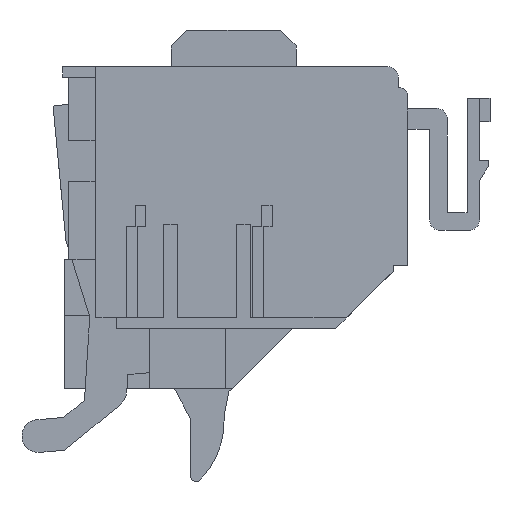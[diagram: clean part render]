
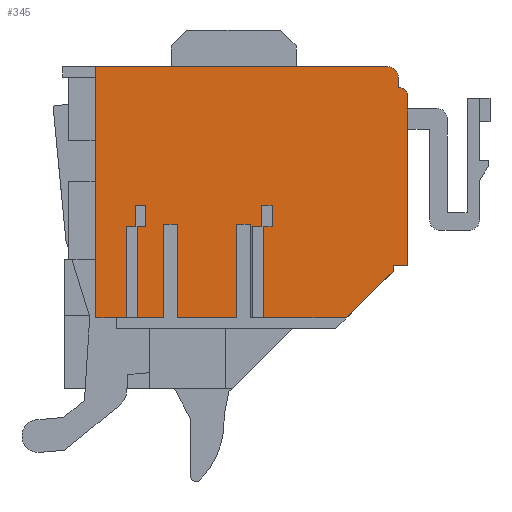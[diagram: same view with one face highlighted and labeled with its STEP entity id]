
A CAD part, front view. The second image highlights one B-rep face of the part: STEP entity #345.
In plain terms, the highlighted planar face has unit normal (0, -1, 0).
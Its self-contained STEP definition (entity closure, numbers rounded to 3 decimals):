
#80=FACE_OUTER_BOUND('',#924,.T.);
#345=ADVANCED_FACE('',(#80),#623,.T.);
#623=PLANE('',#5746);
#924=EDGE_LOOP('',(#1371,#1372,#1373,#1374,#1375,#1376,#1377,#1378,#1379,
#1380,#1381,#1382,#1383,#1384,#1385,#1386,#1387,#1388,#1389,#1390,#1391,
#1392,#1393,#1394,#1395,#1396,#1397,#1398,#1399,#1400,#1401,#1402,#1403,
#1404,#1405));
#1213=CIRCLE('',#5744,0.8);
#1214=CIRCLE('',#5745,1.);
#1371=ORIENTED_EDGE('',*,*,#3505,.T.);
#1372=ORIENTED_EDGE('',*,*,#3514,.T.);
#1373=ORIENTED_EDGE('',*,*,#3500,.T.);
#1374=ORIENTED_EDGE('',*,*,#3487,.T.);
#1375=ORIENTED_EDGE('',*,*,#3515,.T.);
#1376=ORIENTED_EDGE('',*,*,#3516,.T.);
#1377=ORIENTED_EDGE('',*,*,#3517,.T.);
#1378=ORIENTED_EDGE('',*,*,#3518,.T.);
#1379=ORIENTED_EDGE('',*,*,#3519,.T.);
#1380=ORIENTED_EDGE('',*,*,#3520,.T.);
#1381=ORIENTED_EDGE('',*,*,#3521,.F.);
#1382=ORIENTED_EDGE('',*,*,#3522,.F.);
#1383=ORIENTED_EDGE('',*,*,#3523,.F.);
#1384=ORIENTED_EDGE('',*,*,#3524,.F.);
#1385=ORIENTED_EDGE('',*,*,#3525,.F.);
#1386=ORIENTED_EDGE('',*,*,#3526,.F.);
#1387=ORIENTED_EDGE('',*,*,#3527,.F.);
#1388=ORIENTED_EDGE('',*,*,#3528,.F.);
#1389=ORIENTED_EDGE('',*,*,#3529,.F.);
#1390=ORIENTED_EDGE('',*,*,#3530,.F.);
#1391=ORIENTED_EDGE('',*,*,#3531,.F.);
#1392=ORIENTED_EDGE('',*,*,#3532,.F.);
#1393=ORIENTED_EDGE('',*,*,#3533,.F.);
#1394=ORIENTED_EDGE('',*,*,#3534,.F.);
#1395=ORIENTED_EDGE('',*,*,#3535,.F.);
#1396=ORIENTED_EDGE('',*,*,#3536,.F.);
#1397=ORIENTED_EDGE('',*,*,#3537,.F.);
#1398=ORIENTED_EDGE('',*,*,#3538,.F.);
#1399=ORIENTED_EDGE('',*,*,#3539,.F.);
#1400=ORIENTED_EDGE('',*,*,#3540,.F.);
#1401=ORIENTED_EDGE('',*,*,#3541,.F.);
#1402=ORIENTED_EDGE('',*,*,#3542,.F.);
#1403=ORIENTED_EDGE('',*,*,#3543,.F.);
#1404=ORIENTED_EDGE('',*,*,#3544,.F.);
#1405=ORIENTED_EDGE('',*,*,#3545,.F.);
#2945=VERTEX_POINT('',#7683);
#2946=VERTEX_POINT('',#7685);
#2948=VERTEX_POINT('',#7690);
#2958=VERTEX_POINT('',#7716);
#2959=VERTEX_POINT('',#7718);
#2967=VERTEX_POINT('',#7737);
#2968=VERTEX_POINT('',#7739);
#2969=VERTEX_POINT('',#7741);
#2970=VERTEX_POINT('',#7743);
#2971=VERTEX_POINT('',#7745);
#2972=VERTEX_POINT('',#7747);
#2973=VERTEX_POINT('',#7749);
#2974=VERTEX_POINT('',#7751);
#2975=VERTEX_POINT('',#7753);
#2976=VERTEX_POINT('',#7755);
#2977=VERTEX_POINT('',#7757);
#2978=VERTEX_POINT('',#7759);
#2979=VERTEX_POINT('',#7761);
#2980=VERTEX_POINT('',#7763);
#2981=VERTEX_POINT('',#7765);
#2982=VERTEX_POINT('',#7767);
#2983=VERTEX_POINT('',#7769);
#2984=VERTEX_POINT('',#7771);
#2985=VERTEX_POINT('',#7773);
#2986=VERTEX_POINT('',#7775);
#2987=VERTEX_POINT('',#7777);
#2988=VERTEX_POINT('',#7779);
#2989=VERTEX_POINT('',#7781);
#2990=VERTEX_POINT('',#7783);
#2991=VERTEX_POINT('',#7785);
#2992=VERTEX_POINT('',#7787);
#2993=VERTEX_POINT('',#7789);
#2994=VERTEX_POINT('',#7791);
#2995=VERTEX_POINT('',#7793);
#2996=VERTEX_POINT('',#7795);
#3487=EDGE_CURVE('',#2946,#2945,#4286,.T.);
#3500=EDGE_CURVE('',#2948,#2946,#4299,.T.);
#3505=EDGE_CURVE('',#2959,#2958,#4304,.T.);
#3514=EDGE_CURVE('',#2958,#2948,#4313,.T.);
#3515=EDGE_CURVE('',#2945,#2967,#1213,.T.);
#3516=EDGE_CURVE('',#2967,#2968,#4314,.T.);
#3517=EDGE_CURVE('',#2968,#2969,#4315,.T.);
#3518=EDGE_CURVE('',#2969,#2970,#1214,.T.);
#3519=EDGE_CURVE('',#2970,#2971,#4316,.T.);
#3520=EDGE_CURVE('',#2971,#2972,#4317,.T.);
#3521=EDGE_CURVE('',#2973,#2972,#4318,.T.);
#3522=EDGE_CURVE('',#2974,#2973,#4319,.T.);
#3523=EDGE_CURVE('',#2975,#2974,#4320,.T.);
#3524=EDGE_CURVE('',#2976,#2975,#4321,.T.);
#3525=EDGE_CURVE('',#2977,#2976,#4322,.T.);
#3526=EDGE_CURVE('',#2978,#2977,#4323,.T.);
#3527=EDGE_CURVE('',#2979,#2978,#4324,.T.);
#3528=EDGE_CURVE('',#2980,#2979,#4325,.T.);
#3529=EDGE_CURVE('',#2981,#2980,#4326,.T.);
#3530=EDGE_CURVE('',#2982,#2981,#4327,.T.);
#3531=EDGE_CURVE('',#2983,#2982,#4328,.T.);
#3532=EDGE_CURVE('',#2984,#2983,#4329,.T.);
#3533=EDGE_CURVE('',#2985,#2984,#4330,.T.);
#3534=EDGE_CURVE('',#2986,#2985,#4331,.T.);
#3535=EDGE_CURVE('',#2987,#2986,#4332,.T.);
#3536=EDGE_CURVE('',#2988,#2987,#4333,.T.);
#3537=EDGE_CURVE('',#2989,#2988,#4334,.T.);
#3538=EDGE_CURVE('',#2990,#2989,#4335,.T.);
#3539=EDGE_CURVE('',#2991,#2990,#4336,.T.);
#3540=EDGE_CURVE('',#2992,#2991,#4337,.T.);
#3541=EDGE_CURVE('',#2993,#2992,#4338,.T.);
#3542=EDGE_CURVE('',#2994,#2993,#4339,.T.);
#3543=EDGE_CURVE('',#2995,#2994,#4340,.T.);
#3544=EDGE_CURVE('',#2996,#2995,#4341,.T.);
#3545=EDGE_CURVE('',#2959,#2996,#4342,.T.);
#4286=LINE('',#7684,#5044);
#4299=LINE('',#7707,#5057);
#4304=LINE('',#7717,#5062);
#4313=LINE('',#7735,#5071);
#4314=LINE('',#7738,#5072);
#4315=LINE('',#7740,#5073);
#4316=LINE('',#7744,#5074);
#4317=LINE('',#7746,#5075);
#4318=LINE('',#7748,#5076);
#4319=LINE('',#7750,#5077);
#4320=LINE('',#7752,#5078);
#4321=LINE('',#7754,#5079);
#4322=LINE('',#7756,#5080);
#4323=LINE('',#7758,#5081);
#4324=LINE('',#7760,#5082);
#4325=LINE('',#7762,#5083);
#4326=LINE('',#7764,#5084);
#4327=LINE('',#7766,#5085);
#4328=LINE('',#7768,#5086);
#4329=LINE('',#7770,#5087);
#4330=LINE('',#7772,#5088);
#4331=LINE('',#7774,#5089);
#4332=LINE('',#7776,#5090);
#4333=LINE('',#7778,#5091);
#4334=LINE('',#7780,#5092);
#4335=LINE('',#7782,#5093);
#4336=LINE('',#7784,#5094);
#4337=LINE('',#7786,#5095);
#4338=LINE('',#7788,#5096);
#4339=LINE('',#7790,#5097);
#4340=LINE('',#7792,#5098);
#4341=LINE('',#7794,#5099);
#4342=LINE('',#7796,#5100);
#5044=VECTOR('',#6160,1.);
#5057=VECTOR('',#6175,1.);
#5062=VECTOR('',#6182,1.);
#5071=VECTOR('',#6193,1.);
#5072=VECTOR('',#6196,1.);
#5073=VECTOR('',#6197,1.);
#5074=VECTOR('',#6200,1.);
#5075=VECTOR('',#6201,1.);
#5076=VECTOR('',#6202,1.);
#5077=VECTOR('',#6203,1.);
#5078=VECTOR('',#6204,1.);
#5079=VECTOR('',#6205,1.);
#5080=VECTOR('',#6206,1.);
#5081=VECTOR('',#6207,1.);
#5082=VECTOR('',#6208,1.);
#5083=VECTOR('',#6209,1.);
#5084=VECTOR('',#6210,1.);
#5085=VECTOR('',#6211,1.);
#5086=VECTOR('',#6212,1.);
#5087=VECTOR('',#6213,1.);
#5088=VECTOR('',#6214,1.);
#5089=VECTOR('',#6215,1.);
#5090=VECTOR('',#6216,1.);
#5091=VECTOR('',#6217,1.);
#5092=VECTOR('',#6218,1.);
#5093=VECTOR('',#6219,1.);
#5094=VECTOR('',#6220,1.);
#5095=VECTOR('',#6221,1.);
#5096=VECTOR('',#6222,1.);
#5097=VECTOR('',#6223,1.);
#5098=VECTOR('',#6224,1.);
#5099=VECTOR('',#6225,1.);
#5100=VECTOR('',#6226,1.);
#5744=AXIS2_PLACEMENT_3D('',#7736,#6194,#6195);
#5745=AXIS2_PLACEMENT_3D('',#7742,#6198,#6199);
#5746=AXIS2_PLACEMENT_3D('',#7797,#6227,#6228);
#6160=DIRECTION('',(0.,0.,1.));
#6175=DIRECTION('',(1.,0.,0.));
#6182=DIRECTION('',(0.707,0.,0.707));
#6193=DIRECTION('',(0.,0.,1.));
#6194=DIRECTION('',(0.,-1.,0.));
#6195=DIRECTION('',(1.,0.,0.));
#6196=DIRECTION('',(-1.,0.,0.));
#6197=DIRECTION('',(0.,0.,1.));
#6198=DIRECTION('',(0.,-1.,0.));
#6199=DIRECTION('',(1.,0.,0.));
#6200=DIRECTION('',(-1.,0.,0.));
#6201=DIRECTION('',(0.,0.,-1.));
#6202=DIRECTION('',(-1.,0.,0.));
#6203=DIRECTION('',(0.,0.,-1.));
#6204=DIRECTION('',(-1.,0.,0.));
#6205=DIRECTION('',(0.,0.,-1.));
#6206=DIRECTION('',(-1.,0.,0.));
#6207=DIRECTION('',(0.,0.,1.));
#6208=DIRECTION('',(1.,0.,0.));
#6209=DIRECTION('',(0.,0.,1.));
#6210=DIRECTION('',(-1.,0.,0.));
#6211=DIRECTION('',(0.,0.,-1.));
#6212=DIRECTION('',(-1.,0.,0.));
#6213=DIRECTION('',(0.,0.,1.));
#6214=DIRECTION('',(-1.,0.,0.));
#6215=DIRECTION('',(0.,0.,-1.));
#6216=DIRECTION('',(-1.,0.,0.));
#6217=DIRECTION('',(0.,0.,1.));
#6218=DIRECTION('',(-1.,0.,0.));
#6219=DIRECTION('',(0.,0.,-1.));
#6220=DIRECTION('',(-1.,0.,0.));
#6221=DIRECTION('',(0.,0.,-1.));
#6222=DIRECTION('',(-1.,0.,0.));
#6223=DIRECTION('',(0.,0.,1.));
#6224=DIRECTION('',(1.,0.,0.));
#6225=DIRECTION('',(0.,0.,1.));
#6226=DIRECTION('',(-1.,0.,0.));
#6227=DIRECTION('',(0.,-1.,0.));
#6228=DIRECTION('',(0.,0.,-1.));
#7683=CARTESIAN_POINT('',(0.9,18.25,-2.8));
#7684=CARTESIAN_POINT('',(0.9,18.25,-19.1));
#7685=CARTESIAN_POINT('',(0.9,18.25,-19.1));
#7690=CARTESIAN_POINT('',(-0.5,18.25,-19.1));
#7707=CARTESIAN_POINT('',(0.,18.25,-19.1));
#7716=CARTESIAN_POINT('',(-0.5,18.25,-19.6));
#7717=CARTESIAN_POINT('',(-5.3,18.25,-24.4));
#7718=CARTESIAN_POINT('',(-5.,18.25,-24.1));
#7735=CARTESIAN_POINT('',(-0.5,18.25,-2.8));
#7736=CARTESIAN_POINT('',(0.1,18.25,-2.8));
#7737=CARTESIAN_POINT('',(0.1,18.25,-2.));
#7738=CARTESIAN_POINT('',(0.1,18.25,-2.));
#7739=CARTESIAN_POINT('',(0.,18.25,-2.));
#7740=CARTESIAN_POINT('',(0.,18.25,-2.));
#7741=CARTESIAN_POINT('',(0.,18.25,-1.));
#7742=CARTESIAN_POINT('',(-1.,18.25,-1.));
#7743=CARTESIAN_POINT('',(-1.,18.25,0.));
#7744=CARTESIAN_POINT('',(-1.,18.25,0.));
#7745=CARTESIAN_POINT('',(-29.,18.25,0.));
#7746=CARTESIAN_POINT('',(-29.,18.25,0.));
#7747=CARTESIAN_POINT('',(-29.,18.25,-24.1));
#7748=CARTESIAN_POINT('',(-5.,18.25,-24.1));
#7749=CARTESIAN_POINT('',(-26.1,18.25,-24.1));
#7750=CARTESIAN_POINT('',(-26.1,18.25,-15.35));
#7751=CARTESIAN_POINT('',(-26.1,18.25,-15.35));
#7752=CARTESIAN_POINT('',(-25.2,18.25,-15.35));
#7753=CARTESIAN_POINT('',(-25.2,18.25,-15.35));
#7754=CARTESIAN_POINT('',(-25.2,18.25,-13.3));
#7755=CARTESIAN_POINT('',(-25.2,18.25,-13.3));
#7756=CARTESIAN_POINT('',(-24.2,18.25,-13.3));
#7757=CARTESIAN_POINT('',(-24.2,18.25,-13.3));
#7758=CARTESIAN_POINT('',(-24.2,18.25,-15.35));
#7759=CARTESIAN_POINT('',(-24.2,18.25,-15.35));
#7760=CARTESIAN_POINT('',(-25.,18.25,-15.35));
#7761=CARTESIAN_POINT('',(-25.,18.25,-15.35));
#7762=CARTESIAN_POINT('',(-25.,18.25,-24.1));
#7763=CARTESIAN_POINT('',(-25.,18.25,-24.1));
#7764=CARTESIAN_POINT('',(-5.,18.25,-24.1));
#7765=CARTESIAN_POINT('',(-22.5,18.25,-24.1));
#7766=CARTESIAN_POINT('',(-22.5,18.25,-15.1));
#7767=CARTESIAN_POINT('',(-22.5,18.25,-15.1));
#7768=CARTESIAN_POINT('',(-21.2,18.25,-15.1));
#7769=CARTESIAN_POINT('',(-21.2,18.25,-15.1));
#7770=CARTESIAN_POINT('',(-21.2,18.25,-24.1));
#7771=CARTESIAN_POINT('',(-21.2,18.25,-24.1));
#7772=CARTESIAN_POINT('',(-5.,18.25,-24.1));
#7773=CARTESIAN_POINT('',(-15.5,18.25,-24.1));
#7774=CARTESIAN_POINT('',(-15.5,18.25,-15.1));
#7775=CARTESIAN_POINT('',(-15.5,18.25,-15.1));
#7776=CARTESIAN_POINT('',(-14.2,18.25,-15.1));
#7777=CARTESIAN_POINT('',(-14.2,18.25,-15.1));
#7778=CARTESIAN_POINT('',(-14.2,18.25,-24.1));
#7779=CARTESIAN_POINT('',(-14.2,18.25,-24.1));
#7780=CARTESIAN_POINT('',(-5.,18.25,-24.1));
#7781=CARTESIAN_POINT('',(-14.,18.25,-24.1));
#7782=CARTESIAN_POINT('',(-14.,18.25,-15.35));
#7783=CARTESIAN_POINT('',(-14.,18.25,-15.35));
#7784=CARTESIAN_POINT('',(-13.1,18.25,-15.35));
#7785=CARTESIAN_POINT('',(-13.1,18.25,-15.35));
#7786=CARTESIAN_POINT('',(-13.1,18.25,-13.3));
#7787=CARTESIAN_POINT('',(-13.1,18.25,-13.3));
#7788=CARTESIAN_POINT('',(-12.1,18.25,-13.3));
#7789=CARTESIAN_POINT('',(-12.1,18.25,-13.3));
#7790=CARTESIAN_POINT('',(-12.1,18.25,-15.35));
#7791=CARTESIAN_POINT('',(-12.1,18.25,-15.35));
#7792=CARTESIAN_POINT('',(-12.9,18.25,-15.35));
#7793=CARTESIAN_POINT('',(-12.9,18.25,-15.35));
#7794=CARTESIAN_POINT('',(-12.9,18.25,-24.1));
#7795=CARTESIAN_POINT('',(-12.9,18.25,-24.1));
#7796=CARTESIAN_POINT('',(-5.,18.25,-24.1));
#7797=CARTESIAN_POINT('',(0.1,18.25,-2.8));
